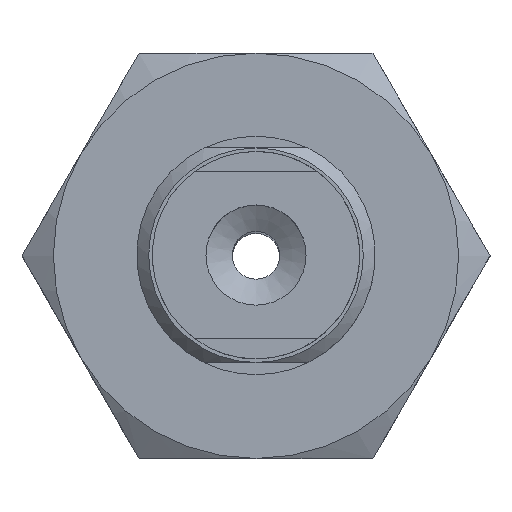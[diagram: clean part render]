
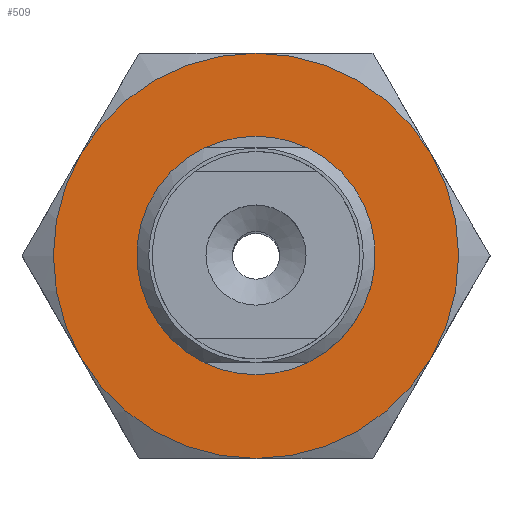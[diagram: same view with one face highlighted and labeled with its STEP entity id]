
A CAD part, top view. The second image highlights one B-rep face of the part: STEP entity #509.
In plain terms, the highlighted planar face has unit normal (0, 0, 1).
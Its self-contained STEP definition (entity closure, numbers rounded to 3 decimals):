
#509=ADVANCED_FACE('',(#713,#714),#715,.T.);
#713=FACE_BOUND('',#995,.T.);
#714=FACE_OUTER_BOUND('',#996,.T.);
#715=PLANE('',#997);
#995=EDGE_LOOP('',(#1571));
#996=EDGE_LOOP('',(#1572,#1573,#1574,#1575,#1576,#1577));
#997=AXIS2_PLACEMENT_3D('',#1578,#1579,#1580);
#1571=ORIENTED_EDGE('',*,*,#1998,.F.);
#1572=ORIENTED_EDGE('',*,*,#1973,.F.);
#1573=ORIENTED_EDGE('',*,*,#1988,.F.);
#1574=ORIENTED_EDGE('',*,*,#1992,.F.);
#1575=ORIENTED_EDGE('',*,*,#1996,.F.);
#1576=ORIENTED_EDGE('',*,*,#1975,.F.);
#1577=ORIENTED_EDGE('',*,*,#1968,.F.);
#1578=CARTESIAN_POINT('',(-9.815,-8.5,4.0));
#1579=DIRECTION('',(0.0,0.0,1.0));
#1580=DIRECTION('',(1.0,0.0,0.0));
#1968=EDGE_CURVE('',#2236,#2223,#2238,.T.);
#1973=EDGE_CURVE('',#2245,#2236,#2248,.T.);
#1975=EDGE_CURVE('',#2223,#2233,#2250,.T.);
#1988=EDGE_CURVE('',#2266,#2245,#2271,.T.);
#1992=EDGE_CURVE('',#2257,#2266,#2275,.T.);
#1996=EDGE_CURVE('',#2233,#2257,#2280,.T.);
#1998=EDGE_CURVE('',#2282,#2282,#2283,.T.);
#2223=VERTEX_POINT('',#2701);
#2233=VERTEX_POINT('',#2728);
#2236=VERTEX_POINT('',#2739);
#2238=CIRCLE('',#2745,8.5);
#2245=VERTEX_POINT('',#2760);
#2248=CIRCLE('',#2767,8.5);
#2250=CIRCLE('',#2773,8.5);
#2257=VERTEX_POINT('',#2789);
#2266=VERTEX_POINT('',#2815);
#2271=CIRCLE('',#2832,8.5);
#2275=CIRCLE('',#2841,8.5);
#2280=CIRCLE('',#2846,8.5);
#2282=VERTEX_POINT('',#2852);
#2283=CIRCLE('',#2853,4.5);
#2701=CARTESIAN_POINT('',(-7.361,4.25,4.0));
#2728=CARTESIAN_POINT('',(0.,8.5,4.0));
#2739=CARTESIAN_POINT('',(-7.361,-4.25,4.0));
#2745=AXIS2_PLACEMENT_3D('',#3171,#3172,#3173);
#2760=CARTESIAN_POINT('',(0.,-8.5,4.0));
#2767=AXIS2_PLACEMENT_3D('',#3177,#3178,#3179);
#2773=AXIS2_PLACEMENT_3D('',#3180,#3181,#3182);
#2789=CARTESIAN_POINT('',(7.361,4.25,4.0));
#2815=CARTESIAN_POINT('',(7.361,-4.25,4.0));
#2832=AXIS2_PLACEMENT_3D('',#3188,#3189,#3190);
#2841=AXIS2_PLACEMENT_3D('',#3195,#3196,#3197);
#2846=AXIS2_PLACEMENT_3D('',#3207,#3208,#3209);
#2852=CARTESIAN_POINT('',(0.0,-4.5,4.0));
#2853=AXIS2_PLACEMENT_3D('',#3210,#3211,#3212);
#3171=CARTESIAN_POINT('',(0.,0.,4.0));
#3172=DIRECTION('',(0.,0.,-1.0));
#3173=DIRECTION('',(0.866,0.5,0.));
#3177=CARTESIAN_POINT('',(0.,0.,4.0));
#3178=DIRECTION('',(0.,0.,-1.0));
#3179=DIRECTION('',(0.866,0.5,0.));
#3180=CARTESIAN_POINT('',(0.,0.,4.0));
#3181=DIRECTION('',(0.,0.,-1.0));
#3182=DIRECTION('',(0.866,0.5,0.));
#3188=CARTESIAN_POINT('',(0.,0.,4.0));
#3189=DIRECTION('',(0.,0.,-1.0));
#3190=DIRECTION('',(0.866,0.5,0.));
#3195=CARTESIAN_POINT('',(0.,0.,4.0));
#3196=DIRECTION('',(0.,0.,-1.0));
#3197=DIRECTION('',(0.866,0.5,0.));
#3207=CARTESIAN_POINT('',(0.,0.,4.0));
#3208=DIRECTION('',(0.,0.,-1.0));
#3209=DIRECTION('',(0.866,0.5,0.));
#3210=CARTESIAN_POINT('',(0.0,0.0,4.0));
#3211=DIRECTION('',(0.0,0.,1.0));
#3212=DIRECTION('',(0.0,-1.0,0.));
